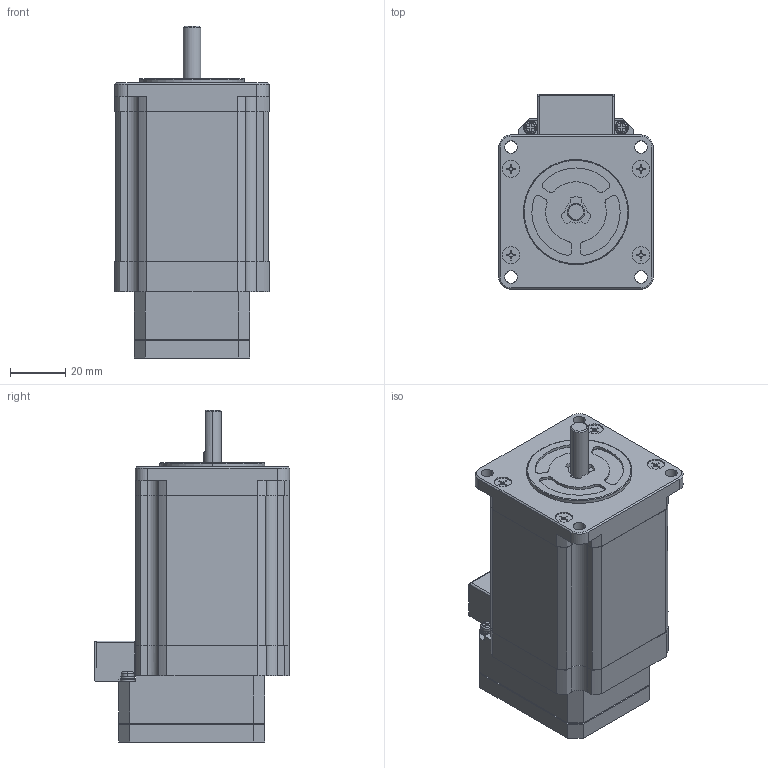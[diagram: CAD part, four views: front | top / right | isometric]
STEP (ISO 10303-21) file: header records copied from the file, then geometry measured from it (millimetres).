
FILE_DESCRIPTION (( 'STEP AP203' ), '1' );
FILE_NAME ('CM1-X-23L20C.STEP', '2012-02-06T15:00:16', ( 'render' ), ( '' ), 'SwSTEP 2.0', 'SolidWorks 2011', '' );
FILE_SCHEMA (( 'CONFIG_CONTROL_DESIGN' ));
Length unit declared in the file: millimetre
Products named in the file (1): CM1-X-23L20C
Bounding box: 56 x 70.81 x 120.4 mm (x, y, z)
Volume: 266485.8 mm3; surface area: 34410.3 mm2
Topology: 1 solids, 1 shells, 907 faces, 2585 edges, 1682 vertices
Faces by surface type: plane 626, cylinder 268, cone 7, bspline 6
Entity records: 29696 total; most frequent: CARTESIAN_POINT 5436, ORIENTED_EDGE 5170, DIRECTION 4935, EDGE_CURVE 2585, VECTOR 2009, LINE 2009, VERTEX_POINT 1682, AXIS2_PLACEMENT_3D 1463
